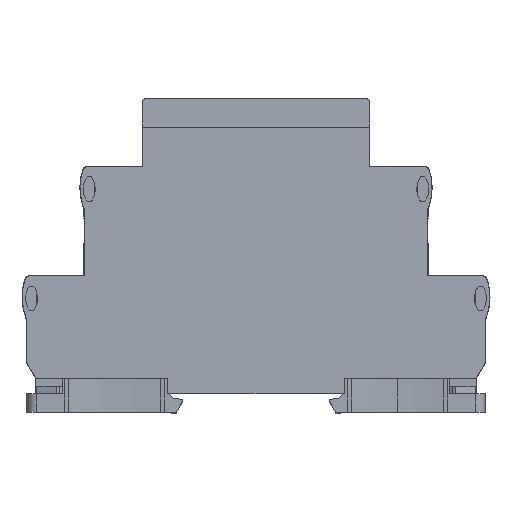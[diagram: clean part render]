
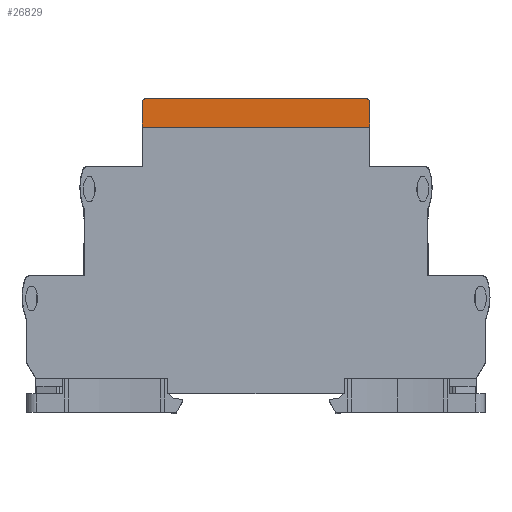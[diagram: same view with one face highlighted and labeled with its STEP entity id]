
A CAD part, top view. The second image highlights one B-rep face of the part: STEP entity #26829.
In plain terms, the highlighted planar face has unit normal (0, 0, 1) as drawn and (1, 0, 0) by its records, which use the part's own axes.
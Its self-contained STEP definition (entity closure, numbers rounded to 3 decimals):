
#812 = CARTESIAN_POINT ( 'NONE',  ( 8.875, -21.6, 0. ) ) ;
#828 = CARTESIAN_POINT ( 'NONE',  ( 8.875, -22.6, 5.75 ) ) ;
#832 = CARTESIAN_POINT ( 'NONE',  ( 8.875, 22.6, 5.75 ) ) ;
#852 = CARTESIAN_POINT ( 'NONE',  ( 8.875, -22.6, 1. ) ) ;
#857 = CARTESIAN_POINT ( 'NONE',  ( 8.875, 22.6, 1. ) ) ;
#861 = CARTESIAN_POINT ( 'NONE',  ( 8.875, 21.6, 0. ) ) ;
#12621 = EDGE_CURVE ( 'NONE', #73270, #73274, #12716, .T. ) ;
#12660 = EDGE_CURVE ( 'NONE', #73270, #73294, #12783, .T. ) ;
#12662 = EDGE_CURVE ( 'NONE', #73254, #73303, #12768, .T. ) ;
#12664 = EDGE_CURVE ( 'NONE', #73303, #73299, #12791, .T. ) ;
#12666 = EDGE_CURVE ( 'NONE', #73274, #73299, #12794, .T. ) ;
#12668 = EDGE_CURVE ( 'NONE', #73294, #73254, #12796, .T. ) ;
#12716 = LINE ( 'NONE', #16188, #12721 ) ;
#12721 = VECTOR ( 'NONE', #16189, 1000. ) ;
#12768 = LINE ( 'NONE', #16213, #12792 ) ;
#12783 = LINE ( 'NONE', #16224, #12789 ) ;
#12789 = VECTOR ( 'NONE', #16226, 1000. ) ;
#12791 = CIRCLE ( 'NONE', #15106, 1. ) ;
#12792 = VECTOR ( 'NONE', #16227, 1000. ) ;
#12794 = LINE ( 'NONE', #16225, #12798 ) ;
#12796 = CIRCLE ( 'NONE', #15107, 1. ) ;
#12798 = VECTOR ( 'NONE', #16216, 1000. ) ;
#15106 = AXIS2_PLACEMENT_3D ( 'NONE', #16231, #16233, #16235 ) ;
#15107 = AXIS2_PLACEMENT_3D ( 'NONE', #16243, #16245, #16247 ) ;
#15492 = AXIS2_PLACEMENT_3D ( 'NONE', #22778, #22789, #22790 ) ;
#16188 = CARTESIAN_POINT ( 'NONE',  ( 8.875, 0., 5.75 ) ) ;
#16189 = DIRECTION ( 'NONE',  ( 0., 1., 0. ) ) ;
#16213 = CARTESIAN_POINT ( 'NONE',  ( 8.875, -22.6, 0. ) ) ;
#16216 = DIRECTION ( 'NONE',  ( 0., 0., -1. ) ) ;
#16224 = CARTESIAN_POINT ( 'NONE',  ( 8.875, -22.6, 1.5 ) ) ;
#16225 = CARTESIAN_POINT ( 'NONE',  ( 8.875, 22.6, 1.5 ) ) ;
#16226 = DIRECTION ( 'NONE',  ( 0., 0., -1. ) ) ;
#16227 = DIRECTION ( 'NONE',  ( 0., 1., 0. ) ) ;
#16231 = CARTESIAN_POINT ( 'NONE',  ( 8.875, 21.6, 1. ) ) ;
#16233 = DIRECTION ( 'NONE',  ( 1., 0., 0. ) ) ;
#16235 = DIRECTION ( 'NONE',  ( 0., 0., 1. ) ) ;
#16243 = CARTESIAN_POINT ( 'NONE',  ( 8.875, -21.6, 1. ) ) ;
#16245 = DIRECTION ( 'NONE',  ( 1., 0., 0. ) ) ;
#16247 = DIRECTION ( 'NONE',  ( 0., 0., 1. ) ) ;
#22774 = PLANE ( 'NONE',  #15492 ) ;
#22778 = CARTESIAN_POINT ( 'NONE',  ( 8.875, -22.6, 1.5 ) ) ;
#22789 = DIRECTION ( 'NONE',  ( -1., 0., 0. ) ) ;
#22790 = DIRECTION ( 'NONE',  ( 0., 0., 1. ) ) ;
#26829 = ADVANCED_FACE ( 'NONE', ( #61814 ), #22774, .F. ) ;
#31512 = ORIENTED_EDGE ( 'NONE', *, *, #12662, .T. ) ;
#31513 = ORIENTED_EDGE ( 'NONE', *, *, #12664, .T. ) ;
#31514 = ORIENTED_EDGE ( 'NONE', *, *, #12666, .F. ) ;
#31515 = ORIENTED_EDGE ( 'NONE', *, *, #12621, .F. ) ;
#31516 = ORIENTED_EDGE ( 'NONE', *, *, #12660, .T. ) ;
#31517 = ORIENTED_EDGE ( 'NONE', *, *, #12668, .T. ) ;
#61814 = FACE_OUTER_BOUND ( 'NONE', #67232, .T. ) ;
#67232 = EDGE_LOOP ( 'NONE', ( #31512, #31513, #31514, #31515, #31516, #31517 ) ) ;
#73254 = VERTEX_POINT ( 'NONE', #812 ) ;
#73270 = VERTEX_POINT ( 'NONE', #828 ) ;
#73274 = VERTEX_POINT ( 'NONE', #832 ) ;
#73294 = VERTEX_POINT ( 'NONE', #852 ) ;
#73299 = VERTEX_POINT ( 'NONE', #857 ) ;
#73303 = VERTEX_POINT ( 'NONE', #861 ) ;
